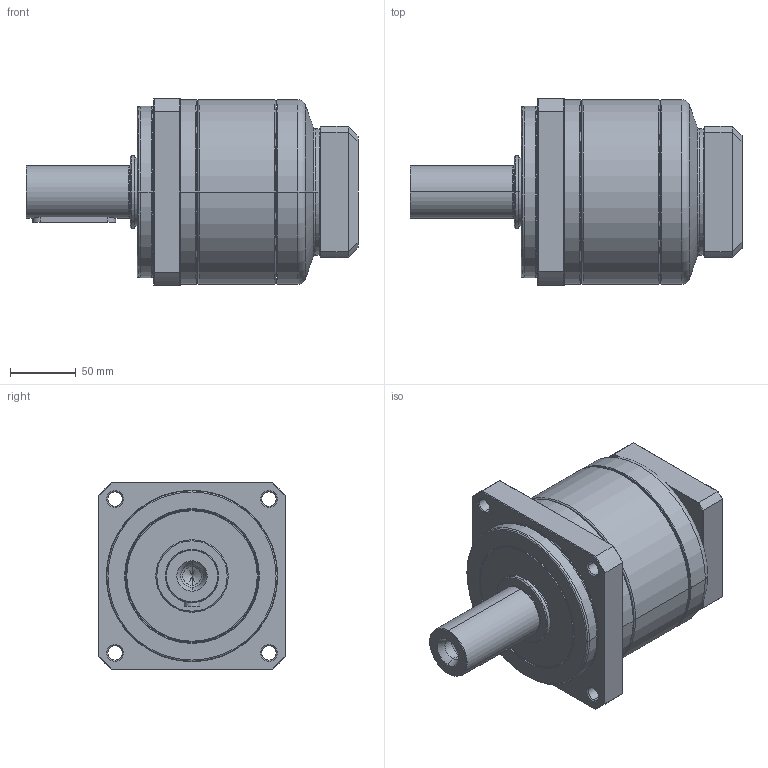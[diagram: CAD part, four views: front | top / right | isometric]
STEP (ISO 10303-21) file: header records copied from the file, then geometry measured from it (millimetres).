
FILE_DESCRIPTION((''),'2;1');
FILE_NAME('PA2-142_1ST_24-P0411500101_ASM','2016-05-06T',('d01943'),(''),'PRO/ENGINEER BY PARAMETRIC TECHNOLOGY CORPORATION, 2008410','PRO/ENGINEER BY PARAMETRIC TECHNOLOGY CORPORATION, 2008410','');
FILE_SCHEMA(('CONFIG_CONTROL_DESIGN'));
Length unit declared in the file: millimetre
Products named in the file (9): P1327510001; P0250500001; P1324500101; P0350500601; P0941501001; P0503500008; P0411500101; P1702500001; PA2-142_1ST_24-P0411500101_ASM
Assembly tree (8 placements, depth 2):
  PA2-142_1ST_24-P0411500101_ASM
    P1327510001
    P0250500001
    P1324500101
    P0350500601
    P0941501001
    P0503500008
    P0411500101
    P1702500001
Bounding box: 252 x 142 x 142 mm (x, y, z)
Volume: 1962105.3 mm3; surface area: 291058.9 mm2
Topology: 8 solids, 8 shells, 455 faces, 996 edges, 576 vertices
Faces by surface type: cone 142, cylinder 127, plane 86, torus 84, bspline 16
Entity records: 17145 total; most frequent: CARTESIAN_POINT 6901, DIRECTION 2312, ORIENTED_EDGE 1952, AXIS2_PLACEMENT_3D 985, EDGE_CURVE 976, VERTEX_POINT 576, CIRCLE 529, EDGE_LOOP 518
